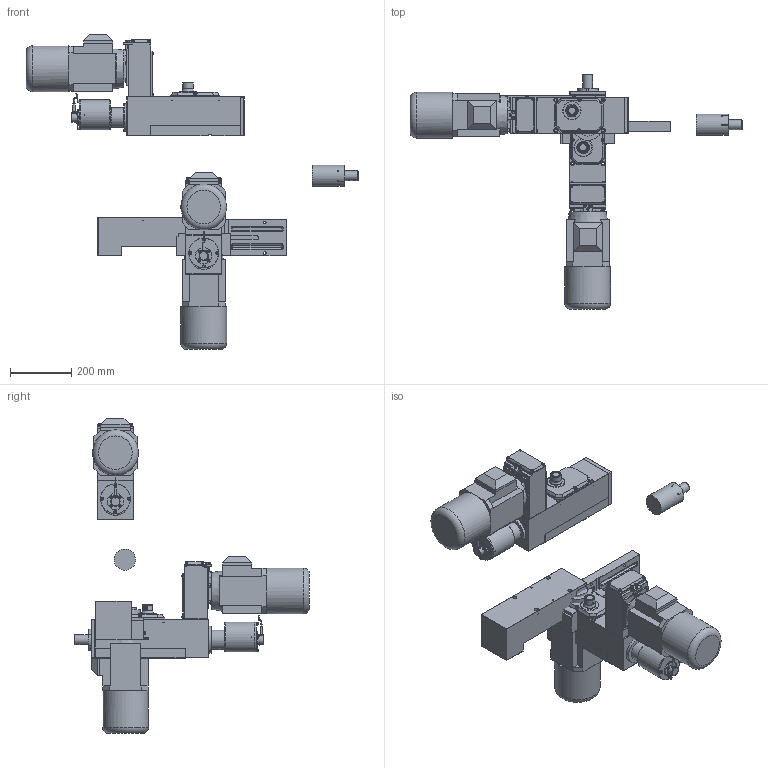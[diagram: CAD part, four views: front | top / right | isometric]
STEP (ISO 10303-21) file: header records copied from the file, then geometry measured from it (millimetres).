
FILE_DESCRIPTION( ( 'STEP AP203' ), '1' );
FILE_NAME( 'C:/Documents and Settings/Saverio/Desktop/disegni ironcad/unità serie 1/M 112/M 112_A04_P.stp', '2013-12-12T18:37:10', ( ' ' ), ( ' ' ), 'XStep 1.0', ' ', ' ' );
FILE_SCHEMA( ( 'CONFIG_CONTROL_DESIGN' ) );
Length unit declared in the file: metre
Products named in the file (52): Assem1; Assem2; Assem3; 1; 2; 3; 4; 5; 6; 7; 8; 9; 10; 11; 12; 13; 14; 15; 16; 17; 18; 19; 20; 21; 22; 23; 24; 25; 26; 27; 28; 29; 30; 31; 32; 33; 34; 35; 36; 37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
Bounding box: 1088.39 x 770 x 1032.13 mm (x, y, z)
Volume: 37675993.5 mm3; surface area: 3042475 mm2
Topology: 147 solids, 147 shells, 3039 faces, 6813 edges, 4236 vertices
Faces by surface type: plane 1875, cylinder 651, cone 405, sphere 60, bspline 30, torus 18
Full cylindrical faces by diameter (mm): 4.134 x3, 4.5 x12, 5 x39, 5.5 x15, 6 x21, 6.5 x6, 6.9 x12, 7 x3, 8 x3, 8.385 x15, 8.5 x24, 9.87 x24, 13.5 x12, 16 x3, 18 x3, 23 x3, 30 x3, 32 x12, 41 x3, 47 x3, 52 x6, 52.5 x3, 54 x9, 54.4 x3, 60 x3, 64 x3, 70 x3, 71 x3, 80 x6, 90 x3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
Entity records: 30804 total; most frequent: CARTESIAN_POINT 6846, DIRECTION 4501, ORIENTED_EDGE 4074, EDGE_CURVE 2037, AXIS2_PLACEMENT_3D 1619, VERTEX_POINT 1393, EDGE_LOOP 1338, LINE 1263
